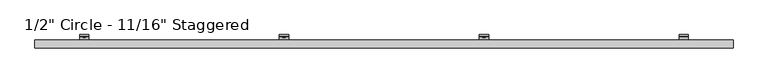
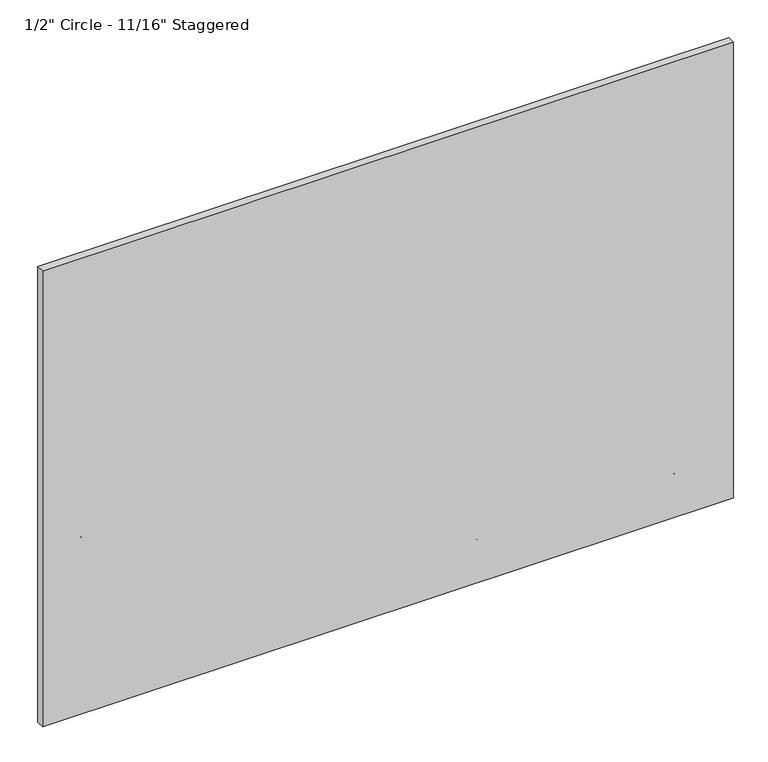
"""IFC4 building model written with IfcOpenShell, lengths in millimetres: plate geometry."""

from ifc_helpers import new_model, si_unit, point, frame, frame_2d, origin, place, context, project, spatial, polyline, circle_curve, trimmed, segment, composite_curve, outline, extrude, source, transform, mapped, element, save
from ifc_brep_helpers import plane_surface, cylinder_surface, revolved_surface, advanced_brep


def plate_dd0b600f(model_context):
    return source(origin(), model_context, "Body", "SolidModel", [
        advanced_brep(
        [(1216.025, -47.625, 737.3555208), (1216.025, -51.2819443, 729.6934884), (1216.025, -89.5163624, 702.9214606), (1216.025, -92.9330442, 706.3381424), (1216.025, -54.3526876, 733.3523989), (1216.025, -52.4002, 737.3555917), (1216.025, -52.4002, 771.5482059), (1216.025, -47.625, 771.5482059), (1254.125, -47.625, 737.3555208), (1254.125, -47.625, 771.5482059), (1254.125, -52.4002, 771.5482059), (1254.125, -52.4002, 737.3555917), (1254.125, -54.3526876, 733.3523989), (1254.125, -92.9330442, 706.3381424), (1254.125, -89.5163624, 702.9214606), (1254.125, -51.2819443, 729.6934884), (1241.8161889, -52.4002, 757.5029897), (1241.8161889, -52.4002, 751.1529897), (1225.5883287, -52.4002, 751.1529897), (1225.5883287, -52.4002, 757.5029897), (1241.8161889, -47.625, 751.1529897), (1241.8161889, -47.625, 757.5029897), (1225.5883287, -47.625, 757.5029897), (1225.5883287, -47.625, 751.1529897)],
        [
            (0, 1, circle_curve(frame((1216.025, -57.4802202, 737.3555208), z_axis=(-1.0, 0.0, 0.0), x_axis=(0.0, -1.0, 0.0)), 9.8552202)),
            (1, 2),
            (2, 3),
            (3, 4),
            (4, 5, circle_curve(frame((1216.025, -57.4803246, 737.3555917), z_axis=(1.0, 0.0, 0.0), x_axis=(0.0, -1.0, 0.0)), 5.0801246)),
            (5, 6),
            (6, 7),
            (7, 0),
            (8, 9),
            (9, 10),
            (10, 11),
            (11, 12, circle_curve(frame((1254.125, -57.4803246, 737.3555917), z_axis=(-1.0, 0.0, 0.0), x_axis=(0.0, -1.0, 0.0)), 5.0801246)),
            (12, 13),
            (13, 14),
            (14, 15),
            (15, 8, circle_curve(frame((1254.125, -57.4802202, 737.3555208), z_axis=(1.0, 0.0, 0.0), x_axis=(0.0, -1.0, 0.0)), 9.8552202)),
            (4, 12),
            (11, 5),
            (10, 6),
            (16, 17, circle_curve(frame((1241.8161889, -52.4002, 754.3279897), z_axis=(0.0, 1.0, 0.0), x_axis=(0.0, 0.0, -1.0)), 3.175)),
            (17, 18),
            (18, 19, circle_curve(frame((1225.5883287, -52.4002, 754.3279897), z_axis=(0.0, 1.0, 0.0), x_axis=(0.0, 0.0, -1.0)), 3.175)),
            (19, 16),
            (9, 7),
            (8, 0),
            (20, 21, circle_curve(frame((1241.8161889, -47.625, 754.3279897), z_axis=(0.0, -1.0, 0.0), x_axis=(0.0, 0.0, -1.0)), 3.175)),
            (21, 22),
            (22, 23, circle_curve(frame((1225.5883287, -47.625, 754.3279897), z_axis=(0.0, -1.0, 0.0), x_axis=(0.0, 0.0, -1.0)), 3.175)),
            (23, 20),
            (15, 1),
            (20, 17),
            (16, 21),
            (19, 22),
            (18, 23),
            (14, 2),
            (13, 3),
        ],
        [
            plane_surface(frame((1216.025, -67.3354404, 737.3555208), z_axis=(-1.0, 0.0, 0.0), x_axis=(0.0, 0.0, 1.0))),
            plane_surface(frame((1254.125, -67.3354404, 737.3555208), z_axis=(1.0, 0.0, 0.0), x_axis=(0.0, 0.0, -1.0))),
            revolved_surface(polyline([(1254.125, -62.5604492, 737.3555917), (1216.025, -62.5604492, 737.3555917)]), (1254.125, -57.4803246, 737.3555917), (1.0, 0.0, 0.0)),
            plane_surface(frame((1216.025, -52.4002, 737.3555917), z_axis=(0.0, -1.0, 0.0), x_axis=(1.0, 0.0, 0.0))),
            plane_surface(frame((1216.025, -52.4002, 771.5482059), z_axis=(0.0, 0.0, 1.0), x_axis=(1.0, 0.0, 0.0))),
            plane_surface(frame((1216.025, -47.625, 771.5482059), z_axis=(0.0, 1.0, 6.99569853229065e-12), x_axis=(1.0, 0.0, 0.0))),
            cylinder_surface(frame((1254.125, -57.4802202, 737.3555208), z_axis=(-1.0, 0.0, 0.0), x_axis=(0.0, -1.0, 0.0)), 9.8552202),
            revolved_surface(polyline([(1241.8161889, -52.4002, 751.1529897), (1241.8161889, -47.625, 751.1529897)]), (1241.8161889, -25.6669948, 754.3279897), (0.0, -1.0, 0.0)),
            plane_surface(frame((1241.8161889, -86.677982, 757.5029897), z_axis=(0.0, 0.0, -1.0), x_axis=(0.0, 1.0, 0.0))),
            revolved_surface(polyline([(1225.5883287, -52.4002, 751.1529897), (1225.5883287, -47.625, 751.1529897)]), (1225.5883287, -25.6669948, 754.3279897), (0.0, -1.0, 0.0)),
            plane_surface(frame((1225.5883287, -86.677982, 751.1529897), z_axis=(-2.7237733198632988e-11, 0.0, 1.0), x_axis=(0.0, 1.0, 0.0))),
            plane_surface(frame((1216.025, -51.2819443, 729.6934884), z_axis=(0.0, 0.5735764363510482, -0.8191520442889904), x_axis=(1.0, 0.0, 0.0))),
            plane_surface(frame((1216.025, -89.5163624, 702.9214606), z_axis=(0.0, -0.7071067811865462, -0.7071067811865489), x_axis=(1.0, 0.0, 0.0))),
            plane_surface(frame((1216.025, -92.9330442, 706.3381424), z_axis=(0.0, -0.5735764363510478, 0.8191520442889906), x_axis=(1.0, 0.0, 0.0))),
        ],
        [
            (0, [[1, 2, 3, 4, 5, 6, 7, 8]]),
            (1, [[9, 10, 11, 12, 13, 14, 15, 16]]),
            (2, [[-5, 17, -12, 18]]),
            (3, [[-6, -18, -11, 19], [20, 21, 22, 23]]),
            (4, [[-7, -19, -10, 24]]),
            (5, [[-8, -24, -9, 25], [26, 27, 28, 29]]),
            (6, [[-1, -25, -16, 30]]),
            (7, [[31, -20, 32, -26]]),
            (8, [[-32, -23, 33, -27]]),
            (9, [[-33, -22, 34, -28]]),
            (10, [[-31, -29, -34, -21]]),
            (11, [[-2, -30, -15, 35]]),
            (12, [[-3, -35, -14, 36]]),
            (13, [[-4, -36, -13, -17]]),
        ],
    ),
        extrude(outline(polyline([(754.5048329, 406.6736701), (750.1591204, 409.1826684), (750.1591204, 414.200665), (754.5048329, 416.7096632), (758.8505454, 414.200665), (758.8505454, 409.1826684), (754.5048329, 406.6736701)])), frame((0.0, -58.7607779, 0.0), z_axis=(0.0, 1.0, 0.0), x_axis=(0.0, 0.0, 1.0)), (0.0, 0.0, 1.0), 11.1357779),
        extrude(outline(composite_curve([segment(trimmed(circle_curve(frame_2d((754.5981399, 411.6916667)), 6.35), [point((754.5981399, 418.0416667))], [point((754.5981399, 405.3416667))], False, "CARTESIAN"), True, "CONTINUOUS"), segment(trimmed(circle_curve(frame_2d((754.5981399, 411.6916667)), 6.35), [point((754.5981399, 405.3416667))], [point((754.5981399, 418.0416667))], False, "CARTESIAN"), True, "CONTINUOUS")], self_intersect=False)), frame((0.0, -57.0817743, 0.0), z_axis=(0.0, 1.0, 0.0), x_axis=(0.0, 0.0, 1.0)), (0.0, 0.0, 1.0), 9.4567743),
        advanced_brep(
        [(392.6416667, -47.625, 737.3555208), (392.6416667, -51.2819443, 729.6934884), (392.6416667, -89.5163624, 702.9214606), (392.6416667, -92.9330442, 706.3381424), (392.6416667, -54.3526876, 733.3523989), (392.6416667, -52.4002, 737.3555917), (392.6416667, -52.4002, 771.5482059), (392.6416667, -47.625, 771.5482059), (430.7416667, -47.625, 737.3555208), (430.7416667, -47.625, 771.5482059), (430.7416667, -52.4002, 771.5482059), (430.7416667, -52.4002, 737.3555917), (430.7416667, -54.3526876, 733.3523989), (430.7416667, -92.9330442, 706.3381424), (430.7416667, -89.5163624, 702.9214606), (430.7416667, -51.2819443, 729.6934884), (418.4328556, -52.4002, 757.5029897), (418.4328556, -52.4002, 751.1529897), (402.2049954, -52.4002, 751.1529897), (402.2049954, -52.4002, 757.5029897), (418.4328556, -47.625, 751.1529897), (418.4328556, -47.625, 757.5029897), (402.2049954, -47.625, 757.5029897), (402.2049954, -47.625, 751.1529897)],
        [
            (0, 1, circle_curve(frame((392.6416667, -57.4802202, 737.3555208), z_axis=(-1.0, 0.0, 0.0), x_axis=(0.0, -1.0, 0.0)), 9.8552202)),
            (1, 2),
            (2, 3),
            (3, 4),
            (4, 5, circle_curve(frame((392.6416667, -57.4803246, 737.3555917), z_axis=(1.0, 0.0, 0.0), x_axis=(0.0, -1.0, 0.0)), 5.0801246)),
            (5, 6),
            (6, 7),
            (7, 0),
            (8, 9),
            (9, 10),
            (10, 11),
            (11, 12, circle_curve(frame((430.7416667, -57.4803246, 737.3555917), z_axis=(-1.0, 0.0, 0.0), x_axis=(0.0, -1.0, 0.0)), 5.0801246)),
            (12, 13),
            (13, 14),
            (14, 15),
            (15, 8, circle_curve(frame((430.7416667, -57.4802202, 737.3555208), z_axis=(1.0, 0.0, 0.0), x_axis=(0.0, -1.0, 0.0)), 9.8552202)),
            (4, 12),
            (11, 5),
            (10, 6),
            (16, 17, circle_curve(frame((418.4328556, -52.4002, 754.3279897), z_axis=(0.0, 1.0, 0.0), x_axis=(0.0, 0.0, -1.0)), 3.175)),
            (17, 18),
            (18, 19, circle_curve(frame((402.2049954, -52.4002, 754.3279897), z_axis=(0.0, 1.0, 0.0), x_axis=(0.0, 0.0, -1.0)), 3.175)),
            (19, 16),
            (9, 7),
            (8, 0),
            (20, 21, circle_curve(frame((418.4328556, -47.625, 754.3279897), z_axis=(0.0, -1.0, 0.0), x_axis=(0.0, 0.0, -1.0)), 3.175)),
            (21, 22),
            (22, 23, circle_curve(frame((402.2049954, -47.625, 754.3279897), z_axis=(0.0, -1.0, 0.0), x_axis=(0.0, 0.0, -1.0)), 3.175)),
            (23, 20),
            (15, 1),
            (20, 17),
            (16, 21),
            (19, 22),
            (18, 23),
            (14, 2),
            (13, 3),
        ],
        [
            plane_surface(frame((392.6416667, -67.3354404, 737.3555208), z_axis=(-1.0, 0.0, 0.0), x_axis=(0.0, 0.0, 1.0))),
            plane_surface(frame((430.7416667, -67.3354404, 737.3555208), z_axis=(1.0, 0.0, 0.0), x_axis=(0.0, 0.0, -1.0))),
            revolved_surface(polyline([(430.7416667, -62.5604492, 737.3555917), (392.6416667, -62.5604492, 737.3555917)]), (430.7416667, -57.4803246, 737.3555917), (1.0, 0.0, 0.0)),
            plane_surface(frame((392.6416667, -52.4002, 737.3555917), z_axis=(0.0, -1.0, 0.0), x_axis=(1.0, 0.0, 0.0))),
            plane_surface(frame((392.6416667, -52.4002, 771.5482059), z_axis=(0.0, 0.0, 1.0), x_axis=(1.0, 0.0, 0.0))),
            plane_surface(frame((392.6416667, -47.625, 771.5482059), z_axis=(0.0, 1.0, 6.99569853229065e-12), x_axis=(1.0, 0.0, 0.0))),
            cylinder_surface(frame((430.7416667, -57.4802202, 737.3555208), z_axis=(-1.0, 0.0, 0.0), x_axis=(0.0, -1.0, 0.0)), 9.8552202),
            revolved_surface(polyline([(418.4328556, -52.4002, 751.1529897), (418.4328556, -47.625, 751.1529897)]), (418.4328556, -25.6669948, 754.3279897), (0.0, -1.0, 0.0)),
            plane_surface(frame((418.4328556, -86.677982, 757.5029897), z_axis=(0.0, 0.0, -1.0), x_axis=(0.0, 1.0, 0.0))),
            revolved_surface(polyline([(402.2049954, -52.4002, 751.1529897), (402.2049954, -47.625, 751.1529897)]), (402.2049954, -25.6669948, 754.3279897), (0.0, -1.0, 0.0)),
            plane_surface(frame((402.2049954, -86.677982, 751.1529897), z_axis=(-2.7237733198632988e-11, 0.0, 1.0), x_axis=(0.0, 1.0, 0.0))),
            plane_surface(frame((392.6416667, -51.2819443, 729.6934884), z_axis=(0.0, 0.5735764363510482, -0.8191520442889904), x_axis=(1.0, 0.0, 0.0))),
            plane_surface(frame((392.6416667, -89.5163624, 702.9214606), z_axis=(0.0, -0.7071067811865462, -0.7071067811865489), x_axis=(1.0, 0.0, 0.0))),
            plane_surface(frame((392.6416667, -92.9330442, 706.3381424), z_axis=(0.0, -0.5735764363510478, 0.8191520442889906), x_axis=(1.0, 0.0, 0.0))),
        ],
        [
            (0, [[1, 2, 3, 4, 5, 6, 7, 8]]),
            (1, [[9, 10, 11, 12, 13, 14, 15, 16]]),
            (2, [[-5, 17, -12, 18]]),
            (3, [[-6, -18, -11, 19], [20, 21, 22, 23]]),
            (4, [[-7, -19, -10, 24]]),
            (5, [[-8, -24, -9, 25], [26, 27, 28, 29]]),
            (6, [[-1, -25, -16, 30]]),
            (7, [[31, -20, 32, -26]]),
            (8, [[-32, -23, 33, -27]]),
            (9, [[-33, -22, 34, -28]]),
            (10, [[-31, -29, -34, -21]]),
            (11, [[-2, -30, -15, 35]]),
            (12, [[-3, -35, -14, 36]]),
            (13, [[-4, -36, -13, -17]]),
        ],
    ),
        extrude(outline(polyline([(754.5048329, -416.7096632), (750.1591204, -414.200665), (750.1591204, -409.1826684), (754.5048329, -406.6736701), (758.8505454, -409.1826684), (758.8505454, -414.200665), (754.5048329, -416.7096632)])), frame((0.0, -58.7607779, 0.0), z_axis=(0.0, 1.0, 0.0), x_axis=(0.0, 0.0, 1.0)), (0.0, 0.0, 1.0), 11.1357779),
        extrude(outline(composite_curve([segment(trimmed(circle_curve(frame_2d((754.5981399, -411.6916667)), 6.35), [point((754.5981399, -405.3416667))], [point((754.5981399, -418.0416667))], False, "CARTESIAN"), True, "CONTINUOUS"), segment(trimmed(circle_curve(frame_2d((754.5981399, -411.6916667)), 6.35), [point((754.5981399, -418.0416667))], [point((754.5981399, -405.3416667))], False, "CARTESIAN"), True, "CONTINUOUS")], self_intersect=False)), frame((0.0, -57.0817743, 0.0), z_axis=(0.0, 1.0, 0.0), x_axis=(0.0, 0.0, 1.0)), (0.0, 0.0, 1.0), 9.4567743),
        advanced_brep(
        [(-430.7416667, -47.625, 737.3555208), (-430.7416667, -51.2819443, 729.6934884), (-430.7416667, -89.5163624, 702.9214606), (-430.7416667, -92.9330442, 706.3381424), (-430.7416667, -54.3526876, 733.3523989), (-430.7416667, -52.4002, 737.3555917), (-430.7416667, -52.4002, 771.5482059), (-430.7416667, -47.625, 771.5482059), (-392.6416667, -47.625, 737.3555208), (-392.6416667, -47.625, 771.5482059), (-392.6416667, -52.4002, 771.5482059), (-392.6416667, -52.4002, 737.3555917), (-392.6416667, -54.3526876, 733.3523989), (-392.6416667, -92.9330442, 706.3381424), (-392.6416667, -89.5163624, 702.9214606), (-392.6416667, -51.2819443, 729.6934884), (-404.9504778, -52.4002, 757.5029897), (-404.9504778, -52.4002, 751.1529897), (-421.178338, -52.4002, 751.1529897), (-421.178338, -52.4002, 757.5029897), (-404.9504778, -47.625, 751.1529897), (-404.9504778, -47.625, 757.5029897), (-421.178338, -47.625, 757.5029897), (-421.178338, -47.625, 751.1529897)],
        [
            (0, 1, circle_curve(frame((-430.7416667, -57.4802202, 737.3555208), z_axis=(-1.0, 0.0, 0.0), x_axis=(0.0, -1.0, 0.0)), 9.8552202)),
            (1, 2),
            (2, 3),
            (3, 4),
            (4, 5, circle_curve(frame((-430.7416667, -57.4803246, 737.3555917), z_axis=(1.0, 0.0, 0.0), x_axis=(0.0, -1.0, 0.0)), 5.0801246)),
            (5, 6),
            (6, 7),
            (7, 0),
            (8, 9),
            (9, 10),
            (10, 11),
            (11, 12, circle_curve(frame((-392.6416667, -57.4803246, 737.3555917), z_axis=(-1.0, 0.0, 0.0), x_axis=(0.0, -1.0, 0.0)), 5.0801246)),
            (12, 13),
            (13, 14),
            (14, 15),
            (15, 8, circle_curve(frame((-392.6416667, -57.4802202, 737.3555208), z_axis=(1.0, 0.0, 0.0), x_axis=(0.0, -1.0, 0.0)), 9.8552202)),
            (4, 12),
            (11, 5),
            (10, 6),
            (16, 17, circle_curve(frame((-404.9504778, -52.4002, 754.3279897), z_axis=(0.0, 1.0, 0.0), x_axis=(0.0, 0.0, -1.0)), 3.175)),
            (17, 18),
            (18, 19, circle_curve(frame((-421.178338, -52.4002, 754.3279897), z_axis=(0.0, 1.0, 0.0), x_axis=(0.0, 0.0, -1.0)), 3.175)),
            (19, 16),
            (9, 7),
            (8, 0),
            (20, 21, circle_curve(frame((-404.9504778, -47.625, 754.3279897), z_axis=(0.0, -1.0, 0.0), x_axis=(0.0, 0.0, -1.0)), 3.175)),
            (21, 22),
            (22, 23, circle_curve(frame((-421.178338, -47.625, 754.3279897), z_axis=(0.0, -1.0, 0.0), x_axis=(0.0, 0.0, -1.0)), 3.175)),
            (23, 20),
            (15, 1),
            (20, 17),
            (16, 21),
            (19, 22),
            (18, 23),
            (14, 2),
            (13, 3),
        ],
        [
            plane_surface(frame((-430.7416667, -67.3354404, 737.3555208), z_axis=(-1.0, 0.0, 0.0), x_axis=(0.0, 0.0, 1.0))),
            plane_surface(frame((-392.6416667, -67.3354404, 737.3555208), z_axis=(1.0, 0.0, 0.0), x_axis=(0.0, 0.0, -1.0))),
            revolved_surface(polyline([(-392.6416667, -62.5604492, 737.3555917), (-430.7416667, -62.5604492, 737.3555917)]), (-392.6416667, -57.4803246, 737.3555917), (1.0, 0.0, 0.0)),
            plane_surface(frame((-430.7416667, -52.4002, 737.3555917), z_axis=(0.0, -1.0, 0.0), x_axis=(1.0, 0.0, 0.0))),
            plane_surface(frame((-430.7416667, -52.4002, 771.5482059), z_axis=(0.0, 0.0, 1.0), x_axis=(1.0, 0.0, 0.0))),
            plane_surface(frame((-430.7416667, -47.625, 771.5482059), z_axis=(0.0, 1.0, 6.99569853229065e-12), x_axis=(1.0, 0.0, 0.0))),
            cylinder_surface(frame((-392.6416667, -57.4802202, 737.3555208), z_axis=(-1.0, 0.0, 0.0), x_axis=(0.0, -1.0, 0.0)), 9.8552202),
            revolved_surface(polyline([(-404.9504778, -52.4002, 751.1529897), (-404.9504778, -47.625, 751.1529897)]), (-404.9504778, -25.6669948, 754.3279897), (0.0, -1.0, 0.0)),
            plane_surface(frame((-404.9504778, -86.677982, 757.5029897), z_axis=(0.0, 0.0, -1.0), x_axis=(0.0, 1.0, 0.0))),
            revolved_surface(polyline([(-421.178338, -52.4002, 751.1529897), (-421.178338, -47.625, 751.1529897)]), (-421.178338, -25.6669948, 754.3279897), (0.0, -1.0, 0.0)),
            plane_surface(frame((-421.178338, -86.677982, 751.1529897), z_axis=(-2.7237733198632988e-11, 0.0, 1.0), x_axis=(0.0, 1.0, 0.0))),
            plane_surface(frame((-430.7416667, -51.2819443, 729.6934884), z_axis=(0.0, 0.5735764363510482, -0.8191520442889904), x_axis=(1.0, 0.0, 0.0))),
            plane_surface(frame((-430.7416667, -89.5163624, 702.9214606), z_axis=(0.0, -0.7071067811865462, -0.7071067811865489), x_axis=(1.0, 0.0, 0.0))),
            plane_surface(frame((-430.7416667, -92.9330442, 706.3381424), z_axis=(0.0, -0.5735764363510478, 0.8191520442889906), x_axis=(1.0, 0.0, 0.0))),
        ],
        [
            (0, [[1, 2, 3, 4, 5, 6, 7, 8]]),
            (1, [[9, 10, 11, 12, 13, 14, 15, 16]]),
            (2, [[-5, 17, -12, 18]]),
            (3, [[-6, -18, -11, 19], [20, 21, 22, 23]]),
            (4, [[-7, -19, -10, 24]]),
            (5, [[-8, -24, -9, 25], [26, 27, 28, 29]]),
            (6, [[-1, -25, -16, 30]]),
            (7, [[31, -20, 32, -26]]),
            (8, [[-32, -23, 33, -27]]),
            (9, [[-33, -22, 34, -28]]),
            (10, [[-31, -29, -34, -21]]),
            (11, [[-2, -30, -15, 35]]),
            (12, [[-3, -35, -14, 36]]),
            (13, [[-4, -36, -13, -17]]),
        ],
    ),
        extrude(outline(polyline([(754.5048329, -1240.0929966), (750.1591204, -1237.5839983), (750.1591204, -1232.5660017), (754.5048329, -1230.0570034), (758.8505454, -1232.5660017), (758.8505454, -1237.5839983), (754.5048329, -1240.0929966)])), frame((0.0, -58.7607779, 0.0), z_axis=(0.0, 1.0, 0.0), x_axis=(0.0, 0.0, 1.0)), (0.0, 0.0, 1.0), 11.1357779),
        extrude(outline(composite_curve([segment(trimmed(circle_curve(frame_2d((754.5981399, -1235.075)), 6.35), [point((754.5981399, -1228.725))], [point((754.5981399, -1241.425))], False, "CARTESIAN"), True, "CONTINUOUS"), segment(trimmed(circle_curve(frame_2d((754.5981399, -1235.075)), 6.35), [point((754.5981399, -1241.425))], [point((754.5981399, -1228.725))], False, "CARTESIAN"), True, "CONTINUOUS")], self_intersect=False)), frame((0.0, -57.0817743, 0.0), z_axis=(0.0, 1.0, 0.0), x_axis=(0.0, 0.0, 1.0)), (0.0, 0.0, 1.0), 9.4567743),
        advanced_brep(
        [(-1254.125, -47.625, 737.3555208), (-1254.125, -51.2819443, 729.6934884), (-1254.125, -89.5163624, 702.9214606), (-1254.125, -92.9330442, 706.3381424), (-1254.125, -54.3526876, 733.3523989), (-1254.125, -52.4002, 737.3555917), (-1254.125, -52.4002, 771.5482059), (-1254.125, -47.625, 771.5482059), (-1216.025, -47.625, 737.3555208), (-1216.025, -47.625, 771.5482059), (-1216.025, -52.4002, 771.5482059), (-1216.025, -52.4002, 737.3555917), (-1216.025, -54.3526876, 733.3523989), (-1216.025, -92.9330442, 706.3381424), (-1216.025, -89.5163624, 702.9214606), (-1216.025, -51.2819443, 729.6934884), (-1228.3338111, -52.4002, 757.5029897), (-1228.3338111, -52.4002, 751.1529897), (-1244.5616713, -52.4002, 751.1529897), (-1244.5616713, -52.4002, 757.5029897), (-1228.3338111, -47.625, 751.1529897), (-1228.3338111, -47.625, 757.5029897), (-1244.5616713, -47.625, 757.5029897), (-1244.5616713, -47.625, 751.1529897)],
        [
            (0, 1, circle_curve(frame((-1254.125, -57.4802202, 737.3555208), z_axis=(-1.0, 0.0, 0.0), x_axis=(0.0, -1.0, 0.0)), 9.8552202)),
            (1, 2),
            (2, 3),
            (3, 4),
            (4, 5, circle_curve(frame((-1254.125, -57.4803246, 737.3555917), z_axis=(1.0, 0.0, 0.0), x_axis=(0.0, -1.0, 0.0)), 5.0801246)),
            (5, 6),
            (6, 7),
            (7, 0),
            (8, 9),
            (9, 10),
            (10, 11),
            (11, 12, circle_curve(frame((-1216.025, -57.4803246, 737.3555917), z_axis=(-1.0, 0.0, 0.0), x_axis=(0.0, -1.0, 0.0)), 5.0801246)),
            (12, 13),
            (13, 14),
            (14, 15),
            (15, 8, circle_curve(frame((-1216.025, -57.4802202, 737.3555208), z_axis=(1.0, 0.0, 0.0), x_axis=(0.0, -1.0, 0.0)), 9.8552202)),
            (4, 12),
            (11, 5),
            (10, 6),
            (16, 17, circle_curve(frame((-1228.3338111, -52.4002, 754.3279897), z_axis=(0.0, 1.0, 0.0), x_axis=(0.0, 0.0, -1.0)), 3.175)),
            (17, 18),
            (18, 19, circle_curve(frame((-1244.5616713, -52.4002, 754.3279897), z_axis=(0.0, 1.0, 0.0), x_axis=(0.0, 0.0, -1.0)), 3.175)),
            (19, 16),
            (9, 7),
            (8, 0),
            (20, 21, circle_curve(frame((-1228.3338111, -47.625, 754.3279897), z_axis=(0.0, -1.0, 0.0), x_axis=(0.0, 0.0, -1.0)), 3.175)),
            (21, 22),
            (22, 23, circle_curve(frame((-1244.5616713, -47.625, 754.3279897), z_axis=(0.0, -1.0, 0.0), x_axis=(0.0, 0.0, -1.0)), 3.175)),
            (23, 20),
            (15, 1),
            (20, 17),
            (16, 21),
            (19, 22),
            (18, 23),
            (14, 2),
            (13, 3),
        ],
        [
            plane_surface(frame((-1254.125, -67.3354404, 737.3555208), z_axis=(-1.0, 0.0, 0.0), x_axis=(0.0, 0.0, 1.0))),
            plane_surface(frame((-1216.025, -67.3354404, 737.3555208), z_axis=(1.0, 0.0, 0.0), x_axis=(0.0, 0.0, -1.0))),
            revolved_surface(polyline([(-1216.025, -62.5604492, 737.3555917), (-1254.125, -62.5604492, 737.3555917)]), (-1216.025, -57.4803246, 737.3555917), (1.0, 0.0, 0.0)),
            plane_surface(frame((-1254.125, -52.4002, 737.3555917), z_axis=(0.0, -1.0, 0.0), x_axis=(1.0, 0.0, 0.0))),
            plane_surface(frame((-1254.125, -52.4002, 771.5482059), z_axis=(0.0, 0.0, 1.0), x_axis=(1.0, 0.0, 0.0))),
            plane_surface(frame((-1254.125, -47.625, 771.5482059), z_axis=(0.0, 1.0, 6.99569853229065e-12), x_axis=(1.0, 0.0, 0.0))),
            cylinder_surface(frame((-1216.025, -57.4802202, 737.3555208), z_axis=(-1.0, 0.0, 0.0), x_axis=(0.0, -1.0, 0.0)), 9.8552202),
            revolved_surface(polyline([(-1228.3338111, -52.4002, 751.1529897), (-1228.3338111, -47.625, 751.1529897)]), (-1228.3338111, -25.6669948, 754.3279897), (0.0, -1.0, 0.0)),
            plane_surface(frame((-1228.3338111, -86.677982, 757.5029897), z_axis=(0.0, 0.0, -1.0), x_axis=(0.0, 1.0, 0.0))),
            revolved_surface(polyline([(-1244.5616713, -52.4002, 751.1529897), (-1244.5616713, -47.625, 751.1529897)]), (-1244.5616713, -25.6669948, 754.3279897), (0.0, -1.0, 0.0)),
            plane_surface(frame((-1244.5616713, -86.677982, 751.1529897), z_axis=(-2.7237733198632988e-11, 0.0, 1.0), x_axis=(0.0, 1.0, 0.0))),
            plane_surface(frame((-1254.125, -51.2819443, 729.6934884), z_axis=(0.0, 0.5735764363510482, -0.8191520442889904), x_axis=(1.0, 0.0, 0.0))),
            plane_surface(frame((-1254.125, -89.5163624, 702.9214606), z_axis=(0.0, -0.7071067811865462, -0.7071067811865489), x_axis=(1.0, 0.0, 0.0))),
            plane_surface(frame((-1254.125, -92.9330442, 706.3381424), z_axis=(0.0, -0.5735764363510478, 0.8191520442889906), x_axis=(1.0, 0.0, 0.0))),
        ],
        [
            (0, [[1, 2, 3, 4, 5, 6, 7, 8]]),
            (1, [[9, 10, 11, 12, 13, 14, 15, 16]]),
            (2, [[-5, 17, -12, 18]]),
            (3, [[-6, -18, -11, 19], [20, 21, 22, 23]]),
            (4, [[-7, -19, -10, 24]]),
            (5, [[-8, -24, -9, 25], [26, 27, 28, 29]]),
            (6, [[-1, -25, -16, 30]]),
            (7, [[31, -20, 32, -26]]),
            (8, [[-32, -23, 33, -27]]),
            (9, [[-33, -22, 34, -28]]),
            (10, [[-31, -29, -34, -21]]),
            (11, [[-2, -30, -15, 35]]),
            (12, [[-3, -35, -14, 36]]),
            (13, [[-4, -36, -13, -17]]),
        ],
    ),
        extrude(outline(polyline([(169.8795323, 1230.0570034), (165.5338197, 1232.5660017), (165.5338197, 1237.5839983), (169.8795323, 1240.0929966), (174.2252448, 1237.5839983), (174.2252448, 1232.5660017), (169.8795323, 1230.0570034)])), frame((0.0, -58.7607779, 0.0), z_axis=(0.0, 1.0, 0.0), x_axis=(0.0, 0.0, 1.0)), (0.0, 0.0, 1.0), 11.1357779),
        extrude(outline(composite_curve([segment(trimmed(circle_curve(frame_2d((169.9728392, 1235.075)), 6.35), [point((169.9728392, 1241.425))], [point((169.9728392, 1228.725))], False, "CARTESIAN"), True, "CONTINUOUS"), segment(trimmed(circle_curve(frame_2d((169.9728392, 1235.075)), 6.35), [point((169.9728392, 1228.725))], [point((169.9728392, 1241.425))], False, "CARTESIAN"), True, "CONTINUOUS")], self_intersect=False)), frame((0.0, -57.0817743, 0.0), z_axis=(0.0, 1.0, 0.0), x_axis=(0.0, 0.0, 1.0)), (0.0, 0.0, 1.0), 9.4567743),
        advanced_brep(
        [(1216.025, -47.625, 152.7302202), (1216.025, -51.2819443, 145.0681877), (1216.025, -89.5163624, 118.29616), (1216.025, -92.9330442, 121.7128418), (1216.025, -54.3526876, 148.7270983), (1216.025, -52.4002, 152.7302911), (1216.025, -52.4002, 186.9229053), (1216.025, -47.625, 186.9229053), (1254.125, -47.625, 152.7302202), (1254.125, -47.625, 186.9229053), (1254.125, -52.4002, 186.9229053), (1254.125, -52.4002, 152.7302911), (1254.125, -54.3526876, 148.7270983), (1254.125, -92.9330442, 121.7128418), (1254.125, -89.5163624, 118.29616), (1254.125, -51.2819443, 145.0681877), (1241.8161889, -52.4002, 172.8776891), (1241.8161889, -52.4002, 166.5276891), (1225.5883287, -52.4002, 166.5276891), (1225.5883287, -52.4002, 172.8776891), (1241.8161889, -47.625, 166.5276891), (1241.8161889, -47.625, 172.8776891), (1225.5883287, -47.625, 172.8776891), (1225.5883287, -47.625, 166.5276891)],
        [
            (0, 1, circle_curve(frame((1216.025, -57.4802202, 152.7302202), z_axis=(-1.0, 0.0, 0.0), x_axis=(0.0, -1.0, 0.0)), 9.8552202)),
            (1, 2),
            (2, 3),
            (3, 4),
            (4, 5, circle_curve(frame((1216.025, -57.4803246, 152.7302911), z_axis=(1.0, 0.0, 0.0), x_axis=(0.0, -1.0, 0.0)), 5.0801246)),
            (5, 6),
            (6, 7),
            (7, 0),
            (8, 9),
            (9, 10),
            (10, 11),
            (11, 12, circle_curve(frame((1254.125, -57.4803246, 152.7302911), z_axis=(-1.0, 0.0, 0.0), x_axis=(0.0, -1.0, 0.0)), 5.0801246)),
            (12, 13),
            (13, 14),
            (14, 15),
            (15, 8, circle_curve(frame((1254.125, -57.4802202, 152.7302202), z_axis=(1.0, 0.0, 0.0), x_axis=(0.0, -1.0, 0.0)), 9.8552202)),
            (4, 12),
            (11, 5),
            (10, 6),
            (16, 17, circle_curve(frame((1241.8161889, -52.4002, 169.7026891), z_axis=(0.0, 1.0, 0.0), x_axis=(0.0, 0.0, -1.0)), 3.175)),
            (17, 18),
            (18, 19, circle_curve(frame((1225.5883287, -52.4002, 169.7026891), z_axis=(0.0, 1.0, 0.0), x_axis=(0.0, 0.0, -1.0)), 3.175)),
            (19, 16),
            (9, 7),
            (8, 0),
            (20, 21, circle_curve(frame((1241.8161889, -47.625, 169.7026891), z_axis=(0.0, -1.0, 0.0), x_axis=(0.0, 0.0, -1.0)), 3.175)),
            (21, 22),
            (22, 23, circle_curve(frame((1225.5883287, -47.625, 169.7026891), z_axis=(0.0, -1.0, 0.0), x_axis=(0.0, 0.0, -1.0)), 3.175)),
            (23, 20),
            (15, 1),
            (20, 17),
            (16, 21),
            (19, 22),
            (18, 23),
            (14, 2),
            (13, 3),
        ],
        [
            plane_surface(frame((1216.025, -67.3354404, 152.7302202), z_axis=(-1.0, 0.0, 0.0), x_axis=(0.0, 0.0, 1.0))),
            plane_surface(frame((1254.125, -67.3354404, 152.7302202), z_axis=(1.0, 0.0, 0.0), x_axis=(0.0, 0.0, -1.0))),
            revolved_surface(polyline([(1254.125, -62.5604492, 152.7302911), (1216.025, -62.5604492, 152.7302911)]), (1254.125, -57.4803246, 152.7302911), (1.0, 0.0, 0.0)),
            plane_surface(frame((1216.025, -52.4002, 152.7302911), z_axis=(0.0, -1.0, 0.0), x_axis=(1.0, 0.0, 0.0))),
            plane_surface(frame((1216.025, -52.4002, 186.9229053), z_axis=(0.0, 0.0, 1.0), x_axis=(1.0, 0.0, 0.0))),
            plane_surface(frame((1216.025, -47.625, 186.9229053), z_axis=(0.0, 1.0, 6.99569853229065e-12), x_axis=(1.0, 0.0, 0.0))),
            cylinder_surface(frame((1254.125, -57.4802202, 152.7302202), z_axis=(-1.0, 0.0, 0.0), x_axis=(0.0, -1.0, 0.0)), 9.8552202),
            revolved_surface(polyline([(1241.8161889, -52.4002, 166.52768909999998), (1241.8161889, -47.625, 166.52768909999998)]), (1241.8161889, -25.6669948, 169.7026891), (0.0, -1.0, 0.0)),
            plane_surface(frame((1241.8161889, -86.677982, 172.8776891), z_axis=(0.0, 0.0, -1.0), x_axis=(0.0, 1.0, 0.0))),
            revolved_surface(polyline([(1225.5883287, -52.4002, 166.52768909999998), (1225.5883287, -47.625, 166.52768909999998)]), (1225.5883287, -25.6669948, 169.7026891), (0.0, -1.0, 0.0)),
            plane_surface(frame((1225.5883287, -86.677982, 166.5276891), z_axis=(-2.723774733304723e-11, 0.0, 1.0), x_axis=(0.0, 1.0, 0.0))),
            plane_surface(frame((1216.025, -51.2819443, 145.0681877), z_axis=(0.0, 0.5735764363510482, -0.8191520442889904), x_axis=(1.0, 0.0, 0.0))),
            plane_surface(frame((1216.025, -89.5163624, 118.29616), z_axis=(0.0, -0.7071067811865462, -0.7071067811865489), x_axis=(1.0, 0.0, 0.0))),
            plane_surface(frame((1216.025, -92.9330442, 121.7128418), z_axis=(0.0, -0.5735764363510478, 0.8191520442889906), x_axis=(1.0, 0.0, 0.0))),
        ],
        [
            (0, [[1, 2, 3, 4, 5, 6, 7, 8]]),
            (1, [[9, 10, 11, 12, 13, 14, 15, 16]]),
            (2, [[-5, 17, -12, 18]]),
            (3, [[-6, -18, -11, 19], [20, 21, 22, 23]]),
            (4, [[-7, -19, -10, 24]]),
            (5, [[-8, -24, -9, 25], [26, 27, 28, 29]]),
            (6, [[-1, -25, -16, 30]]),
            (7, [[31, -20, 32, -26]]),
            (8, [[-32, -23, 33, -27]]),
            (9, [[-33, -22, 34, -28]]),
            (10, [[-31, -29, -34, -21]]),
            (11, [[-2, -30, -15, 35]]),
            (12, [[-3, -35, -14, 36]]),
            (13, [[-4, -36, -13, -17]]),
        ],
    ),
        extrude(outline(polyline([(169.8795323, 406.6736701), (165.5338197, 409.1826684), (165.5338197, 414.200665), (169.8795323, 416.7096632), (174.2252448, 414.200665), (174.2252448, 409.1826684), (169.8795323, 406.6736701)])), frame((0.0, -58.7607779, 0.0), z_axis=(0.0, 1.0, 0.0), x_axis=(0.0, 0.0, 1.0)), (0.0, 0.0, 1.0), 11.1357779),
        extrude(outline(composite_curve([segment(trimmed(circle_curve(frame_2d((169.9728392, 411.6916667)), 6.35), [point((169.9728392, 418.0416667))], [point((169.9728392, 405.3416667))], False, "CARTESIAN"), True, "CONTINUOUS"), segment(trimmed(circle_curve(frame_2d((169.9728392, 411.6916667)), 6.35), [point((169.9728392, 405.3416667))], [point((169.9728392, 418.0416667))], False, "CARTESIAN"), True, "CONTINUOUS")], self_intersect=False)), frame((0.0, -57.0817743, 0.0), z_axis=(0.0, 1.0, 0.0), x_axis=(0.0, 0.0, 1.0)), (0.0, 0.0, 1.0), 9.4567743),
        advanced_brep(
        [(392.6416667, -47.625, 152.7302202), (392.6416667, -51.2819443, 145.0681877), (392.6416667, -89.5163624, 118.29616), (392.6416667, -92.9330442, 121.7128418), (392.6416667, -54.3526876, 148.7270983), (392.6416667, -52.4002, 152.7302911), (392.6416667, -52.4002, 186.9229053), (392.6416667, -47.625, 186.9229053), (430.7416667, -47.625, 152.7302202), (430.7416667, -47.625, 186.9229053), (430.7416667, -52.4002, 186.9229053), (430.7416667, -52.4002, 152.7302911), (430.7416667, -54.3526876, 148.7270983), (430.7416667, -92.9330442, 121.7128418), (430.7416667, -89.5163624, 118.29616), (430.7416667, -51.2819443, 145.0681877), (418.4328556, -52.4002, 172.8776891), (418.4328556, -52.4002, 166.5276891), (402.2049954, -52.4002, 166.5276891), (402.2049954, -52.4002, 172.8776891), (418.4328556, -47.625, 166.5276891), (418.4328556, -47.625, 172.8776891), (402.2049954, -47.625, 172.8776891), (402.2049954, -47.625, 166.5276891)],
        [
            (0, 1, circle_curve(frame((392.6416667, -57.4802202, 152.7302202), z_axis=(-1.0, 0.0, 0.0), x_axis=(0.0, -1.0, 0.0)), 9.8552202)),
            (1, 2),
            (2, 3),
            (3, 4),
            (4, 5, circle_curve(frame((392.6416667, -57.4803246, 152.7302911), z_axis=(1.0, 0.0, 0.0), x_axis=(0.0, -1.0, 0.0)), 5.0801246)),
            (5, 6),
            (6, 7),
            (7, 0),
            (8, 9),
            (9, 10),
            (10, 11),
            (11, 12, circle_curve(frame((430.7416667, -57.4803246, 152.7302911), z_axis=(-1.0, 0.0, 0.0), x_axis=(0.0, -1.0, 0.0)), 5.0801246)),
            (12, 13),
            (13, 14),
            (14, 15),
            (15, 8, circle_curve(frame((430.7416667, -57.4802202, 152.7302202), z_axis=(1.0, 0.0, 0.0), x_axis=(0.0, -1.0, 0.0)), 9.8552202)),
            (4, 12),
            (11, 5),
            (10, 6),
            (16, 17, circle_curve(frame((418.4328556, -52.4002, 169.7026891), z_axis=(0.0, 1.0, 0.0), x_axis=(0.0, 0.0, -1.0)), 3.175)),
            (17, 18),
            (18, 19, circle_curve(frame((402.2049954, -52.4002, 169.7026891), z_axis=(0.0, 1.0, 0.0), x_axis=(0.0, 0.0, -1.0)), 3.175)),
            (19, 16),
            (9, 7),
            (8, 0),
            (20, 21, circle_curve(frame((418.4328556, -47.625, 169.7026891), z_axis=(0.0, -1.0, 0.0), x_axis=(0.0, 0.0, -1.0)), 3.175)),
            (21, 22),
            (22, 23, circle_curve(frame((402.2049954, -47.625, 169.7026891), z_axis=(0.0, -1.0, 0.0), x_axis=(0.0, 0.0, -1.0)), 3.175)),
            (23, 20),
            (15, 1),
            (20, 17),
            (16, 21),
            (19, 22),
            (18, 23),
            (14, 2),
            (13, 3),
        ],
        [
            plane_surface(frame((392.6416667, -67.3354404, 152.7302202), z_axis=(-1.0, 0.0, 0.0), x_axis=(0.0, 0.0, 1.0))),
            plane_surface(frame((430.7416667, -67.3354404, 152.7302202), z_axis=(1.0, 0.0, 0.0), x_axis=(0.0, 0.0, -1.0))),
            revolved_surface(polyline([(430.7416667, -62.5604492, 152.7302911), (392.6416667, -62.5604492, 152.7302911)]), (430.7416667, -57.4803246, 152.7302911), (1.0, 0.0, 0.0)),
            plane_surface(frame((392.6416667, -52.4002, 152.7302911), z_axis=(0.0, -1.0, 0.0), x_axis=(1.0, 0.0, 0.0))),
            plane_surface(frame((392.6416667, -52.4002, 186.9229053), z_axis=(0.0, 0.0, 1.0), x_axis=(1.0, 0.0, 0.0))),
            plane_surface(frame((392.6416667, -47.625, 186.9229053), z_axis=(0.0, 1.0, 6.99569853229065e-12), x_axis=(1.0, 0.0, 0.0))),
            cylinder_surface(frame((430.7416667, -57.4802202, 152.7302202), z_axis=(-1.0, 0.0, 0.0), x_axis=(0.0, -1.0, 0.0)), 9.8552202),
            revolved_surface(polyline([(418.4328556, -52.4002, 166.52768909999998), (418.4328556, -47.625, 166.52768909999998)]), (418.4328556, -25.6669948, 169.7026891), (0.0, -1.0, 0.0)),
            plane_surface(frame((418.4328556, -86.677982, 172.8776891), z_axis=(0.0, 0.0, -1.0), x_axis=(0.0, 1.0, 0.0))),
            revolved_surface(polyline([(402.2049954, -52.4002, 166.52768909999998), (402.2049954, -47.625, 166.52768909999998)]), (402.2049954, -25.6669948, 169.7026891), (0.0, -1.0, 0.0)),
            plane_surface(frame((402.2049954, -86.677982, 166.5276891), z_axis=(-2.723774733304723e-11, 0.0, 1.0), x_axis=(0.0, 1.0, 0.0))),
            plane_surface(frame((392.6416667, -51.2819443, 145.0681877), z_axis=(0.0, 0.5735764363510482, -0.8191520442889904), x_axis=(1.0, 0.0, 0.0))),
            plane_surface(frame((392.6416667, -89.5163624, 118.29616), z_axis=(0.0, -0.7071067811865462, -0.7071067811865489), x_axis=(1.0, 0.0, 0.0))),
            plane_surface(frame((392.6416667, -92.9330442, 121.7128418), z_axis=(0.0, -0.5735764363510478, 0.8191520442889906), x_axis=(1.0, 0.0, 0.0))),
        ],
        [
            (0, [[1, 2, 3, 4, 5, 6, 7, 8]]),
            (1, [[9, 10, 11, 12, 13, 14, 15, 16]]),
            (2, [[-5, 17, -12, 18]]),
            (3, [[-6, -18, -11, 19], [20, 21, 22, 23]]),
            (4, [[-7, -19, -10, 24]]),
            (5, [[-8, -24, -9, 25], [26, 27, 28, 29]]),
            (6, [[-1, -25, -16, 30]]),
            (7, [[31, -20, 32, -26]]),
            (8, [[-32, -23, 33, -27]]),
            (9, [[-33, -22, 34, -28]]),
            (10, [[-31, -29, -34, -21]]),
            (11, [[-2, -30, -15, 35]]),
            (12, [[-3, -35, -14, 36]]),
            (13, [[-4, -36, -13, -17]]),
        ],
    ),
        extrude(outline(polyline([(169.8795323, -416.7096632), (165.5338197, -414.200665), (165.5338197, -409.1826684), (169.8795323, -406.6736701), (174.2252448, -409.1826684), (174.2252448, -414.200665), (169.8795323, -416.7096632)])), frame((0.0, -58.7607779, 0.0), z_axis=(0.0, 1.0, 0.0), x_axis=(0.0, 0.0, 1.0)), (0.0, 0.0, 1.0), 11.1357779),
        extrude(outline(composite_curve([segment(trimmed(circle_curve(frame_2d((169.9728392, -411.6916667)), 6.35), [point((169.9728392, -405.3416667))], [point((169.9728392, -418.0416667))], False, "CARTESIAN"), True, "CONTINUOUS"), segment(trimmed(circle_curve(frame_2d((169.9728392, -411.6916667)), 6.35), [point((169.9728392, -418.0416667))], [point((169.9728392, -405.3416667))], False, "CARTESIAN"), True, "CONTINUOUS")], self_intersect=False)), frame((0.0, -57.0817743, 0.0), z_axis=(0.0, 1.0, 0.0), x_axis=(0.0, 0.0, 1.0)), (0.0, 0.0, 1.0), 9.4567743),
        advanced_brep(
        [(-430.7416667, -47.625, 152.7302202), (-430.7416667, -51.2819443, 145.0681877), (-430.7416667, -89.5163624, 118.29616), (-430.7416667, -92.9330442, 121.7128418), (-430.7416667, -54.3526876, 148.7270983), (-430.7416667, -52.4002, 152.7302911), (-430.7416667, -52.4002, 186.9229053), (-430.7416667, -47.625, 186.9229053), (-392.6416667, -47.625, 152.7302202), (-392.6416667, -47.625, 186.9229053), (-392.6416667, -52.4002, 186.9229053), (-392.6416667, -52.4002, 152.7302911), (-392.6416667, -54.3526876, 148.7270983), (-392.6416667, -92.9330442, 121.7128418), (-392.6416667, -89.5163624, 118.29616), (-392.6416667, -51.2819443, 145.0681877), (-404.9504778, -52.4002, 172.8776891), (-404.9504778, -52.4002, 166.5276891), (-421.178338, -52.4002, 166.5276891), (-421.178338, -52.4002, 172.8776891), (-404.9504778, -47.625, 166.5276891), (-404.9504778, -47.625, 172.8776891), (-421.178338, -47.625, 172.8776891), (-421.178338, -47.625, 166.5276891)],
        [
            (0, 1, circle_curve(frame((-430.7416667, -57.4802202, 152.7302202), z_axis=(-1.0, 0.0, 0.0), x_axis=(0.0, -1.0, 0.0)), 9.8552202)),
            (1, 2),
            (2, 3),
            (3, 4),
            (4, 5, circle_curve(frame((-430.7416667, -57.4803246, 152.7302911), z_axis=(1.0, 0.0, 0.0), x_axis=(0.0, -1.0, 0.0)), 5.0801246)),
            (5, 6),
            (6, 7),
            (7, 0),
            (8, 9),
            (9, 10),
            (10, 11),
            (11, 12, circle_curve(frame((-392.6416667, -57.4803246, 152.7302911), z_axis=(-1.0, 0.0, 0.0), x_axis=(0.0, -1.0, 0.0)), 5.0801246)),
            (12, 13),
            (13, 14),
            (14, 15),
            (15, 8, circle_curve(frame((-392.6416667, -57.4802202, 152.7302202), z_axis=(1.0, 0.0, 0.0), x_axis=(0.0, -1.0, 0.0)), 9.8552202)),
            (4, 12),
            (11, 5),
            (10, 6),
            (16, 17, circle_curve(frame((-404.9504778, -52.4002, 169.7026891), z_axis=(0.0, 1.0, 0.0), x_axis=(0.0, 0.0, -1.0)), 3.175)),
            (17, 18),
            (18, 19, circle_curve(frame((-421.178338, -52.4002, 169.7026891), z_axis=(0.0, 1.0, 0.0), x_axis=(0.0, 0.0, -1.0)), 3.175)),
            (19, 16),
            (9, 7),
            (8, 0),
            (20, 21, circle_curve(frame((-404.9504778, -47.625, 169.7026891), z_axis=(0.0, -1.0, 0.0), x_axis=(0.0, 0.0, -1.0)), 3.175)),
            (21, 22),
            (22, 23, circle_curve(frame((-421.178338, -47.625, 169.7026891), z_axis=(0.0, -1.0, 0.0), x_axis=(0.0, 0.0, -1.0)), 3.175)),
            (23, 20),
            (15, 1),
            (20, 17),
            (16, 21),
            (19, 22),
            (18, 23),
            (14, 2),
            (13, 3),
        ],
        [
            plane_surface(frame((-430.7416667, -67.3354404, 152.7302202), z_axis=(-1.0, 0.0, 0.0), x_axis=(0.0, 0.0, 1.0))),
            plane_surface(frame((-392.6416667, -67.3354404, 152.7302202), z_axis=(1.0, 0.0, 0.0), x_axis=(0.0, 0.0, -1.0))),
            revolved_surface(polyline([(-392.6416667, -62.5604492, 152.7302911), (-430.7416667, -62.5604492, 152.7302911)]), (-392.6416667, -57.4803246, 152.7302911), (1.0, 0.0, 0.0)),
            plane_surface(frame((-430.7416667, -52.4002, 152.7302911), z_axis=(0.0, -1.0, 0.0), x_axis=(1.0, 0.0, 0.0))),
            plane_surface(frame((-430.7416667, -52.4002, 186.9229053), z_axis=(0.0, 0.0, 1.0), x_axis=(1.0, 0.0, 0.0))),
            plane_surface(frame((-430.7416667, -47.625, 186.9229053), z_axis=(0.0, 1.0, 6.99569853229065e-12), x_axis=(1.0, 0.0, 0.0))),
            cylinder_surface(frame((-392.6416667, -57.4802202, 152.7302202), z_axis=(-1.0, 0.0, 0.0), x_axis=(0.0, -1.0, 0.0)), 9.8552202),
            revolved_surface(polyline([(-404.9504778, -52.4002, 166.52768909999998), (-404.9504778, -47.625, 166.52768909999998)]), (-404.9504778, -25.6669948, 169.7026891), (0.0, -1.0, 0.0)),
            plane_surface(frame((-404.9504778, -86.677982, 172.8776891), z_axis=(0.0, 0.0, -1.0), x_axis=(0.0, 1.0, 0.0))),
            revolved_surface(polyline([(-421.178338, -52.4002, 166.52768909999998), (-421.178338, -47.625, 166.52768909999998)]), (-421.178338, -25.6669948, 169.7026891), (0.0, -1.0, 0.0)),
            plane_surface(frame((-421.178338, -86.677982, 166.5276891), z_axis=(-2.723774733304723e-11, 0.0, 1.0), x_axis=(0.0, 1.0, 0.0))),
            plane_surface(frame((-430.7416667, -51.2819443, 145.0681877), z_axis=(0.0, 0.5735764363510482, -0.8191520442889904), x_axis=(1.0, 0.0, 0.0))),
            plane_surface(frame((-430.7416667, -89.5163624, 118.29616), z_axis=(0.0, -0.7071067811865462, -0.7071067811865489), x_axis=(1.0, 0.0, 0.0))),
            plane_surface(frame((-430.7416667, -92.9330442, 121.7128418), z_axis=(0.0, -0.5735764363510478, 0.8191520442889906), x_axis=(1.0, 0.0, 0.0))),
        ],
        [
            (0, [[1, 2, 3, 4, 5, 6, 7, 8]]),
            (1, [[9, 10, 11, 12, 13, 14, 15, 16]]),
            (2, [[-5, 17, -12, 18]]),
            (3, [[-6, -18, -11, 19], [20, 21, 22, 23]]),
            (4, [[-7, -19, -10, 24]]),
            (5, [[-8, -24, -9, 25], [26, 27, 28, 29]]),
            (6, [[-1, -25, -16, 30]]),
            (7, [[31, -20, 32, -26]]),
            (8, [[-32, -23, 33, -27]]),
            (9, [[-33, -22, 34, -28]]),
            (10, [[-31, -29, -34, -21]]),
            (11, [[-2, -30, -15, 35]]),
            (12, [[-3, -35, -14, 36]]),
            (13, [[-4, -36, -13, -17]]),
        ],
    ),
        extrude(outline(polyline([(169.8795323, -1240.0929966), (165.5338197, -1237.5839983), (165.5338197, -1232.5660017), (169.8795323, -1230.0570034), (174.2252448, -1232.5660017), (174.2252448, -1237.5839983), (169.8795323, -1240.0929966)])), frame((0.0, -58.7607779, 0.0), z_axis=(0.0, 1.0, 0.0), x_axis=(0.0, 0.0, 1.0)), (0.0, 0.0, 1.0), 11.1357779),
        extrude(outline(composite_curve([segment(trimmed(circle_curve(frame_2d((169.9728392, -1235.075)), 6.35), [point((169.9728392, -1228.725))], [point((169.9728392, -1241.425))], False, "CARTESIAN"), True, "CONTINUOUS"), segment(trimmed(circle_curve(frame_2d((169.9728392, -1235.075)), 6.35), [point((169.9728392, -1241.425))], [point((169.9728392, -1228.725))], False, "CARTESIAN"), True, "CONTINUOUS")], self_intersect=False)), frame((0.0, -57.0817743, 0.0), z_axis=(0.0, 1.0, 0.0), x_axis=(0.0, 0.0, 1.0)), (0.0, 0.0, 1.0), 9.4567743),
        advanced_brep(
        [(-1254.125, -47.625, 152.7302202), (-1254.125, -51.2819443, 145.0681877), (-1254.125, -89.5163624, 118.29616), (-1254.125, -92.9330442, 121.7128418), (-1254.125, -54.3526876, 148.7270983), (-1254.125, -52.4002, 152.7302911), (-1254.125, -52.4002, 186.9229053), (-1254.125, -47.625, 186.9229053), (-1216.025, -47.625, 152.7302202), (-1216.025, -47.625, 186.9229053), (-1216.025, -52.4002, 186.9229053), (-1216.025, -52.4002, 152.7302911), (-1216.025, -54.3526876, 148.7270983), (-1216.025, -92.9330442, 121.7128418), (-1216.025, -89.5163624, 118.29616), (-1216.025, -51.2819443, 145.0681877), (-1228.3338111, -52.4002, 172.8776891), (-1228.3338111, -52.4002, 166.5276891), (-1244.5616713, -52.4002, 166.5276891), (-1244.5616713, -52.4002, 172.8776891), (-1228.3338111, -47.625, 166.5276891), (-1228.3338111, -47.625, 172.8776891), (-1244.5616713, -47.625, 172.8776891), (-1244.5616713, -47.625, 166.5276891)],
        [
            (0, 1, circle_curve(frame((-1254.125, -57.4802202, 152.7302202), z_axis=(-1.0, 0.0, 0.0), x_axis=(0.0, -1.0, 0.0)), 9.8552202)),
            (1, 2),
            (2, 3),
            (3, 4),
            (4, 5, circle_curve(frame((-1254.125, -57.4803246, 152.7302911), z_axis=(1.0, 0.0, 0.0), x_axis=(0.0, -1.0, 0.0)), 5.0801246)),
            (5, 6),
            (6, 7),
            (7, 0),
            (8, 9),
            (9, 10),
            (10, 11),
            (11, 12, circle_curve(frame((-1216.025, -57.4803246, 152.7302911), z_axis=(-1.0, 0.0, 0.0), x_axis=(0.0, -1.0, 0.0)), 5.0801246)),
            (12, 13),
            (13, 14),
            (14, 15),
            (15, 8, circle_curve(frame((-1216.025, -57.4802202, 152.7302202), z_axis=(1.0, 0.0, 0.0), x_axis=(0.0, -1.0, 0.0)), 9.8552202)),
            (4, 12),
            (11, 5),
            (10, 6),
            (16, 17, circle_curve(frame((-1228.3338111, -52.4002, 169.7026891), z_axis=(0.0, 1.0, 0.0), x_axis=(0.0, 0.0, -1.0)), 3.175)),
            (17, 18),
            (18, 19, circle_curve(frame((-1244.5616713, -52.4002, 169.7026891), z_axis=(0.0, 1.0, 0.0), x_axis=(0.0, 0.0, -1.0)), 3.175)),
            (19, 16),
            (9, 7),
            (8, 0),
            (20, 21, circle_curve(frame((-1228.3338111, -47.625, 169.7026891), z_axis=(0.0, -1.0, 0.0), x_axis=(0.0, 0.0, -1.0)), 3.175)),
            (21, 22),
            (22, 23, circle_curve(frame((-1244.5616713, -47.625, 169.7026891), z_axis=(0.0, -1.0, 0.0), x_axis=(0.0, 0.0, -1.0)), 3.175)),
            (23, 20),
            (15, 1),
            (20, 17),
            (16, 21),
            (19, 22),
            (18, 23),
            (14, 2),
            (13, 3),
        ],
        [
            plane_surface(frame((-1254.125, -67.3354404, 152.7302202), z_axis=(-1.0, 0.0, 0.0), x_axis=(0.0, 0.0, 1.0))),
            plane_surface(frame((-1216.025, -67.3354404, 152.7302202), z_axis=(1.0, 0.0, 0.0), x_axis=(0.0, 0.0, -1.0))),
            revolved_surface(polyline([(-1216.025, -62.5604492, 152.7302911), (-1254.125, -62.5604492, 152.7302911)]), (-1216.025, -57.4803246, 152.7302911), (1.0, 0.0, 0.0)),
            plane_surface(frame((-1254.125, -52.4002, 152.7302911), z_axis=(0.0, -1.0, 0.0), x_axis=(1.0, 0.0, 0.0))),
            plane_surface(frame((-1254.125, -52.4002, 186.9229053), z_axis=(0.0, 0.0, 1.0), x_axis=(1.0, 0.0, 0.0))),
            plane_surface(frame((-1254.125, -47.625, 186.9229053), z_axis=(0.0, 1.0, 6.99569853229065e-12), x_axis=(1.0, 0.0, 0.0))),
            cylinder_surface(frame((-1216.025, -57.4802202, 152.7302202), z_axis=(-1.0, 0.0, 0.0), x_axis=(0.0, -1.0, 0.0)), 9.8552202),
            revolved_surface(polyline([(-1228.3338111, -52.4002, 166.52768909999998), (-1228.3338111, -47.625, 166.52768909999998)]), (-1228.3338111, -25.6669948, 169.7026891), (0.0, -1.0, 0.0)),
            plane_surface(frame((-1228.3338111, -86.677982, 172.8776891), z_axis=(0.0, 0.0, -1.0), x_axis=(0.0, 1.0, 0.0))),
            revolved_surface(polyline([(-1244.5616713, -52.4002, 166.52768909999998), (-1244.5616713, -47.625, 166.52768909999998)]), (-1244.5616713, -25.6669948, 169.7026891), (0.0, -1.0, 0.0)),
            plane_surface(frame((-1244.5616713, -86.677982, 166.5276891), z_axis=(-2.723774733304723e-11, 0.0, 1.0), x_axis=(0.0, 1.0, 0.0))),
            plane_surface(frame((-1254.125, -51.2819443, 145.0681877), z_axis=(0.0, 0.5735764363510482, -0.8191520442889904), x_axis=(1.0, 0.0, 0.0))),
            plane_surface(frame((-1254.125, -89.5163624, 118.29616), z_axis=(0.0, -0.7071067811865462, -0.7071067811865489), x_axis=(1.0, 0.0, 0.0))),
            plane_surface(frame((-1254.125, -92.9330442, 121.7128418), z_axis=(0.0, -0.5735764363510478, 0.8191520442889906), x_axis=(1.0, 0.0, 0.0))),
        ],
        [
            (0, [[1, 2, 3, 4, 5, 6, 7, 8]]),
            (1, [[9, 10, 11, 12, 13, 14, 15, 16]]),
            (2, [[-5, 17, -12, 18]]),
            (3, [[-6, -18, -11, 19], [20, 21, 22, 23]]),
            (4, [[-7, -19, -10, 24]]),
            (5, [[-8, -24, -9, 25], [26, 27, 28, 29]]),
            (6, [[-1, -25, -16, 30]]),
            (7, [[31, -20, 32, -26]]),
            (8, [[-32, -23, 33, -27]]),
            (9, [[-33, -22, 34, -28]]),
            (10, [[-31, -29, -34, -21]]),
            (11, [[-2, -30, -15, 35]]),
            (12, [[-3, -35, -14, 36]]),
            (13, [[-4, -36, -13, -17]]),
        ],
    ),
        extrude(outline(polyline([(1438.275, -102.4064478), (-1438.275, -102.4064478), (-1438.275, -69.9147678), (1438.275, -69.9147678), (1438.275, -102.4064478)])), frame((0.0, 0.0, 15.875), z_axis=(0.0, 0.0, 1.0), x_axis=(1.0, 0.0, 0.0)), (0.0, 0.0, 1.0), 2007.8759019),
    ])


if __name__ == "__main__":
    model = new_model("IFC4")
    model_context = context("Model", 3, world=origin())
    ifc_project = project(units=[si_unit("LENGTHUNIT", "METRE", prefix="MILLI")], contexts=[model_context])
    site = spatial("IfcSite", under=ifc_project)
    building = spatial("IfcBuilding", under=site)
    placement = place(None, origin())
    plate_shape = plate_dd0b600f(model_context)
    element("IfcPlate", 1, ObjectType="Single-Panel-Perforated-Amico_Architectural : 1/2\" Circle - 11/16\" Staggered", at=placement, inside=building, context=model_context, shape_type="MappedRepresentation", body=[
        mapped(plate_shape, transform((0.0, 0.0, 0.0), x_axis=(1.0, 0.0, 0.0), y_axis=(0.0, 1.0, 0.0), z_axis=(0.0, 0.0, 1.0))),
    ])
    save(model, "model.ifc")
